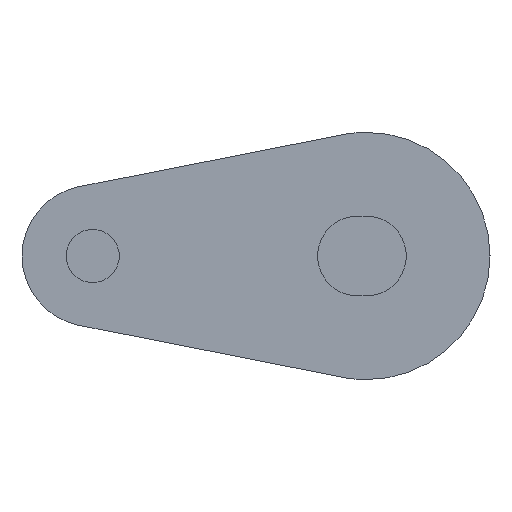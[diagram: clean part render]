
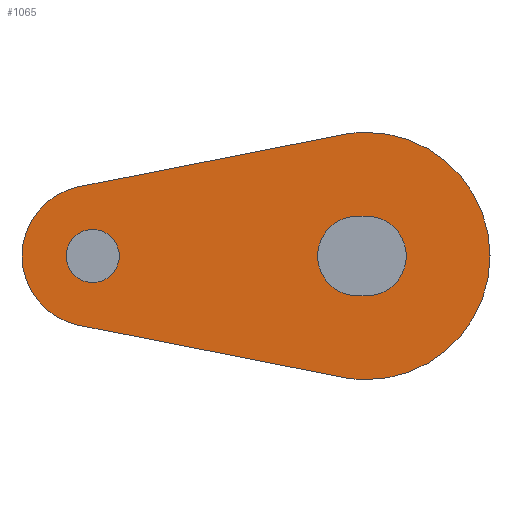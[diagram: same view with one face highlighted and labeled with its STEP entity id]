
A CAD part, left-side view. The second image highlights one B-rep face of the part: STEP entity #1065.
In plain terms, the highlighted planar face has unit normal (-1, 0, 0).
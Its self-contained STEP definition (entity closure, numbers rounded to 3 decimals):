
#12 = CIRCLE ( 'NONE', #419, 1.51 ) ;
#29 = VECTOR ( 'NONE', #702, 1000. ) ;
#30 = LINE ( 'NONE', #703, #29 ) ;
#48 = CIRCLE ( 'NONE', #441, 7. ) ;
#49 = CIRCLE ( 'NONE', #506, 2.26 ) ;
#54 = CIRCLE ( 'NONE', #375, 4. ) ;
#87 = VECTOR ( 'NONE', #812, 1000. ) ;
#88 = CIRCLE ( 'NONE', #494, 2.26 ) ;
#89 = LINE ( 'NONE', #831, #87 ) ;
#92 = CIRCLE ( 'NONE', #504, 7. ) ;
#93 = LINE ( 'NONE', #852, #97 ) ;
#96 = CIRCLE ( 'NONE', #484, 7. ) ;
#97 = VECTOR ( 'NONE', #830, 1000. ) ;
#99 = VECTOR ( 'NONE', #533, 1000. ) ;
#102 = LINE ( 'NONE', #538, #99 ) ;
#117 = CIRCLE ( 'NONE', #470, 1.51 ) ;
#126 = ORIENTED_EDGE ( 'NONE', *, *, #389, .T. ) ;
#154 = ORIENTED_EDGE ( 'NONE', *, *, #499, .T. ) ;
#155 = ORIENTED_EDGE ( 'NONE', *, *, #476, .T. ) ;
#160 = ORIENTED_EDGE ( 'NONE', *, *, #361, .T. ) ;
#165 = ORIENTED_EDGE ( 'NONE', *, *, #385, .F. ) ;
#166 = ORIENTED_EDGE ( 'NONE', *, *, #388, .F. ) ;
#167 = ORIENTED_EDGE ( 'NONE', *, *, #394, .F. ) ;
#206 = ORIENTED_EDGE ( 'NONE', *, *, #455, .F. ) ;
#207 = ORIENTED_EDGE ( 'NONE', *, *, #381, .F. ) ;
#208 = ORIENTED_EDGE ( 'NONE', *, *, #450, .F. ) ;
#220 = ORIENTED_EDGE ( 'NONE', *, *, #454, .T. ) ;
#280 = ORIENTED_EDGE ( 'NONE', *, *, #391, .T. ) ;
#296 = EDGE_LOOP ( 'NONE', ( #220, #126, #280, #155 ) ) ;
#297 = EDGE_LOOP ( 'NONE', ( #154, #160 ) ) ;
#298 = EDGE_LOOP ( 'NONE', ( #208, #167, #166, #165, #206, #207 ) ) ;
#361 = EDGE_CURVE ( 'NONE', #843, #646, #117, .T. ) ;
#375 = AXIS2_PLACEMENT_3D ( 'NONE', #651, #655, #654 ) ;
#381 = EDGE_CURVE ( 'NONE', #593, #583, #102, .T. ) ;
#385 = EDGE_CURVE ( 'NONE', #603, #587, #96, .T. ) ;
#388 = EDGE_CURVE ( 'NONE', #587, #846, #92, .T. ) ;
#389 = EDGE_CURVE ( 'NONE', #594, #808, #93, .T. ) ;
#391 = EDGE_CURVE ( 'NONE', #808, #705, #88, .T. ) ;
#394 = EDGE_CURVE ( 'NONE', #846, #816, #89, .T. ) ;
#415 = AXIS2_PLACEMENT_3D ( 'NONE', #954, #953, #968 ) ;
#419 = AXIS2_PLACEMENT_3D ( 'NONE', #712, #721, #723 ) ;
#441 = AXIS2_PLACEMENT_3D ( 'NONE', #657, #666, #665 ) ;
#450 = EDGE_CURVE ( 'NONE', #816, #593, #54, .T. ) ;
#454 = EDGE_CURVE ( 'NONE', #575, #594, #49, .T. ) ;
#455 = EDGE_CURVE ( 'NONE', #583, #603, #48, .T. ) ;
#470 = AXIS2_PLACEMENT_3D ( 'NONE', #806, #752, #746 ) ;
#476 = EDGE_CURVE ( 'NONE', #705, #575, #30, .T. ) ;
#484 = AXIS2_PLACEMENT_3D ( 'NONE', #530, #523, #520 ) ;
#494 = AXIS2_PLACEMENT_3D ( 'NONE', #833, #832, #834 ) ;
#499 = EDGE_CURVE ( 'NONE', #646, #843, #12, .T. ) ;
#504 = AXIS2_PLACEMENT_3D ( 'NONE', #792, #785, #784 ) ;
#506 = AXIS2_PLACEMENT_3D ( 'NONE', #661, #660, #669 ) ;
#513 = CARTESIAN_POINT ( 'NONE',  ( -553.5, 16.274, -3.924 ) ) ;
#520 = DIRECTION ( 'NONE',  ( 0., 0., -1. ) ) ;
#523 = DIRECTION ( 'NONE',  ( 1., 0., 0. ) ) ;
#530 = CARTESIAN_POINT ( 'NONE',  ( -553.5, 0., 0. ) ) ;
#533 = DIRECTION ( 'NONE',  ( 0., -0.981, 0.194 ) ) ;
#538 = CARTESIAN_POINT ( 'NONE',  ( -553.5, 16.274, 3.924 ) ) ;
#575 = VERTEX_POINT ( 'NONE', #735 ) ;
#579 = CARTESIAN_POINT ( 'NONE',  ( -553.5, 15.5, 1.51 ) ) ;
#583 = VERTEX_POINT ( 'NONE', #740 ) ;
#587 = VERTEX_POINT ( 'NONE', #733 ) ;
#590 = CARTESIAN_POINT ( 'NONE',  ( -553.5, 1.355, -6.868 ) ) ;
#593 = VERTEX_POINT ( 'NONE', #749 ) ;
#594 = VERTEX_POINT ( 'NONE', #748 ) ;
#603 = VERTEX_POINT ( 'NONE', #608 ) ;
#604 = CARTESIAN_POINT ( 'NONE',  ( -553.5, 0., 2.26 ) ) ;
#608 = CARTESIAN_POINT ( 'NONE',  ( -553.5, 0., 7. ) ) ;
#623 = CARTESIAN_POINT ( 'NONE',  ( -553.5, 0., -2.26 ) ) ;
#627 = CARTESIAN_POINT ( 'NONE',  ( -553.5, 15.5, -1.51 ) ) ;
#646 = VERTEX_POINT ( 'NONE', #627 ) ;
#651 = CARTESIAN_POINT ( 'NONE',  ( -553.5, 15.5, 0. ) ) ;
#654 = DIRECTION ( 'NONE',  ( 0., 0., -1. ) ) ;
#655 = DIRECTION ( 'NONE',  ( 1., 0., 0. ) ) ;
#657 = CARTESIAN_POINT ( 'NONE',  ( -553.5, 0., 0. ) ) ;
#660 = DIRECTION ( 'NONE',  ( 1., 0., 0. ) ) ;
#661 = CARTESIAN_POINT ( 'NONE',  ( -553.5, 0.5, 0. ) ) ;
#665 = DIRECTION ( 'NONE',  ( 0., 0., -1. ) ) ;
#666 = DIRECTION ( 'NONE',  ( 1., 0., 0. ) ) ;
#669 = DIRECTION ( 'NONE',  ( 0., 0., -1. ) ) ;
#702 = DIRECTION ( 'NONE',  ( 0., 1., 0. ) ) ;
#703 = CARTESIAN_POINT ( 'NONE',  ( -553.5, 0.5, -2.26 ) ) ;
#705 = VERTEX_POINT ( 'NONE', #623 ) ;
#712 = CARTESIAN_POINT ( 'NONE',  ( -553.5, 15.5, 0. ) ) ;
#721 = DIRECTION ( 'NONE',  ( 1., 0., 0. ) ) ;
#723 = DIRECTION ( 'NONE',  ( 0., 0., -1. ) ) ;
#733 = CARTESIAN_POINT ( 'NONE',  ( -553.5, 0., -7. ) ) ;
#735 = CARTESIAN_POINT ( 'NONE',  ( -553.5, 0.5, -2.26 ) ) ;
#740 = CARTESIAN_POINT ( 'NONE',  ( -553.5, 1.355, 6.868 ) ) ;
#746 = DIRECTION ( 'NONE',  ( 0., 0., -1. ) ) ;
#748 = CARTESIAN_POINT ( 'NONE',  ( -553.5, 0.5, 2.26 ) ) ;
#749 = CARTESIAN_POINT ( 'NONE',  ( -553.5, 16.274, 3.924 ) ) ;
#752 = DIRECTION ( 'NONE',  ( 1., 0., 0. ) ) ;
#784 = DIRECTION ( 'NONE',  ( 0., 0., -1. ) ) ;
#785 = DIRECTION ( 'NONE',  ( 1., 0., 0. ) ) ;
#792 = CARTESIAN_POINT ( 'NONE',  ( -553.5, 0., 0. ) ) ;
#806 = CARTESIAN_POINT ( 'NONE',  ( -553.5, 15.5, 0. ) ) ;
#808 = VERTEX_POINT ( 'NONE', #604 ) ;
#812 = DIRECTION ( 'NONE',  ( 0., 0.981, 0.194 ) ) ;
#816 = VERTEX_POINT ( 'NONE', #513 ) ;
#830 = DIRECTION ( 'NONE',  ( 0., -1., 0. ) ) ;
#831 = CARTESIAN_POINT ( 'NONE',  ( -553.5, 1.355, -6.868 ) ) ;
#832 = DIRECTION ( 'NONE',  ( 1., 0., 0. ) ) ;
#833 = CARTESIAN_POINT ( 'NONE',  ( -553.5, 0., 0. ) ) ;
#834 = DIRECTION ( 'NONE',  ( 0., 0., -1. ) ) ;
#843 = VERTEX_POINT ( 'NONE', #579 ) ;
#846 = VERTEX_POINT ( 'NONE', #590 ) ;
#852 = CARTESIAN_POINT ( 'NONE',  ( -553.5, 0.5, 2.26 ) ) ;
#884 = PLANE ( 'NONE',  #415 ) ;
#953 = DIRECTION ( 'NONE',  ( -1., 0., 0. ) ) ;
#954 = CARTESIAN_POINT ( 'NONE',  ( -553.5, 15.5, 0. ) ) ;
#968 = DIRECTION ( 'NONE',  ( 0., 0., -1. ) ) ;
#1003 = FACE_BOUND ( 'NONE', #296, .T. ) ;
#1007 = FACE_OUTER_BOUND ( 'NONE', #298, .T. ) ;
#1008 = FACE_BOUND ( 'NONE', #297, .T. ) ;
#1065 = ADVANCED_FACE ( 'NONE', ( #1003, #1008, #1007 ), #884, .T. ) ;
